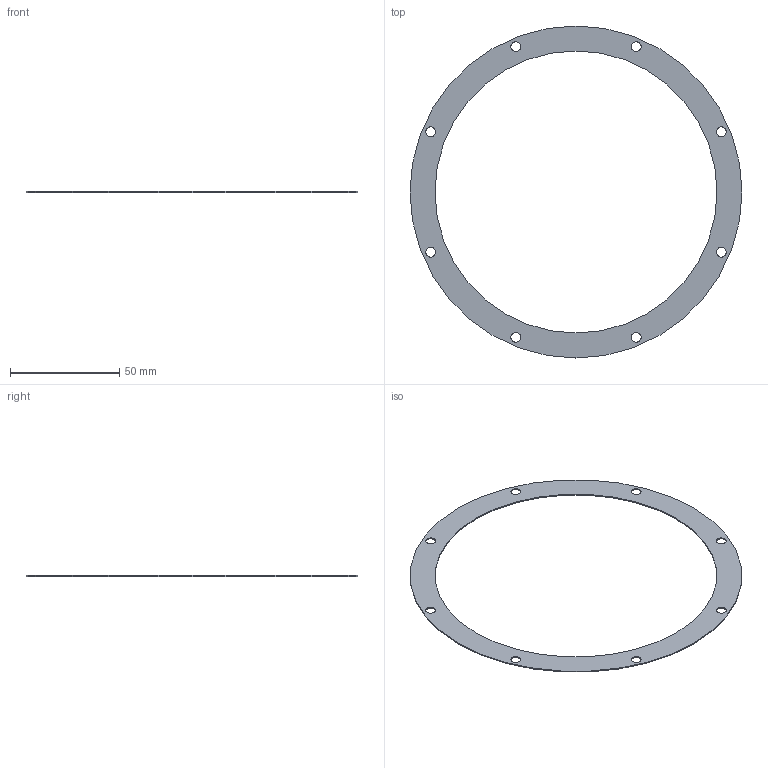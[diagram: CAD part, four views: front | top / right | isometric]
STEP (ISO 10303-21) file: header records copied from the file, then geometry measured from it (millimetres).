
FILE_DESCRIPTION(('Open CASCADE Model'),'2;1');
FILE_NAME('Open CASCADE Shape Model','2026-09-23T04:43:31',('Author'),( 'Open CASCADE'),'Open CASCADE STEP processor 7.9','Open CASCADE 7.9' ,'Unknown');
FILE_SCHEMA(('AUTOMOTIVE_DESIGN { 1 0 10303 214 1 1 1 1 }'));
Length unit declared in the file: millimetre
Products named in the file (1): Open CASCADE STEP translator 7.9 14
Bounding box: 152 x 152 x 0.5 mm (x, y, z)
Volume: 2464.3 mm3; surface area: 10355.1 mm2
Topology: 1 solids, 1 shells, 12 faces, 30 edges, 20 vertices
Faces by surface type: cylinder 10, plane 2
Full cylindrical faces by diameter (mm): 4.5 x8, 129.1 x1, 152 x1
Entity records: 858 total; most frequent: CARTESIAN_POINT 219, DIRECTION 120, ORIENTED_EDGE 60, PCURVE 60, DEFINITIONAL_REPRESENTATION 60, LINE 50, VECTOR 50, AXIS2_PLACEMENT_3D 33
